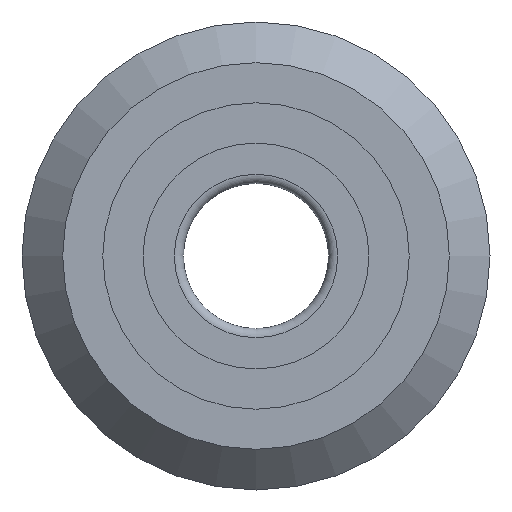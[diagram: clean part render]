
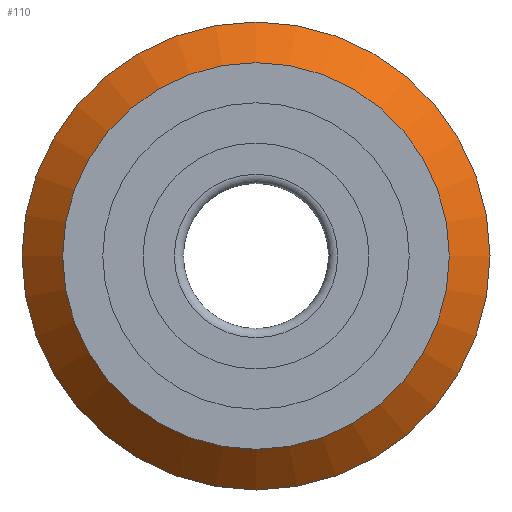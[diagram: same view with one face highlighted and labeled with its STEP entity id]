
A CAD part, front view. The second image highlights one B-rep face of the part: STEP entity #110.
In plain terms, the highlighted conical face has half-angle 45 degrees and reference radius 12.695 mm.
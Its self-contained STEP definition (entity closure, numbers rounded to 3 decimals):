
#110=ADVANCED_FACE('',(#167,#168),#169,.T.);
#167=FACE_OUTER_BOUND('',#233,.T.);
#168=FACE_BOUND('',#234,.T.);
#169=CONICAL_SURFACE('',#235,12.695,0.785);
#233=EDGE_LOOP('',(#333));
#234=EDGE_LOOP('',(#334));
#235=AXIS2_PLACEMENT_3D('',#335,#336,#337);
#333=ORIENTED_EDGE('',*,*,#378,.F.);
#334=ORIENTED_EDGE('',*,*,#361,.T.);
#335=CARTESIAN_POINT('',(0.0,-5.565,0.0));
#336=DIRECTION('',(-0.0,1.0,-0.0));
#337=DIRECTION('',(0.0,0.0,1.0));
#361=EDGE_CURVE('',#386,#386,#387,.T.);
#378=EDGE_CURVE('',#420,#420,#421,.T.);
#386=VERTEX_POINT('',#430);
#387=CIRCLE('',#431,12.695);
#420=VERTEX_POINT('',#464);
#421=CIRCLE('',#465,15.365);
#430=CARTESIAN_POINT('',(0.0,-5.565,12.695));
#431=AXIS2_PLACEMENT_3D('',#477,#478,#479);
#464=CARTESIAN_POINT('',(0.0,-2.895,15.365));
#465=AXIS2_PLACEMENT_3D('',#528,#529,#530);
#477=CARTESIAN_POINT('',(0.0,-5.565,0.0));
#478=DIRECTION('',(0.0,1.0,0.0));
#479=DIRECTION('',(0.0,0.0,1.0));
#528=CARTESIAN_POINT('',(0.0,-2.895,0.0));
#529=DIRECTION('',(0.0,1.0,0.0));
#530=DIRECTION('',(0.0,0.0,1.0));
